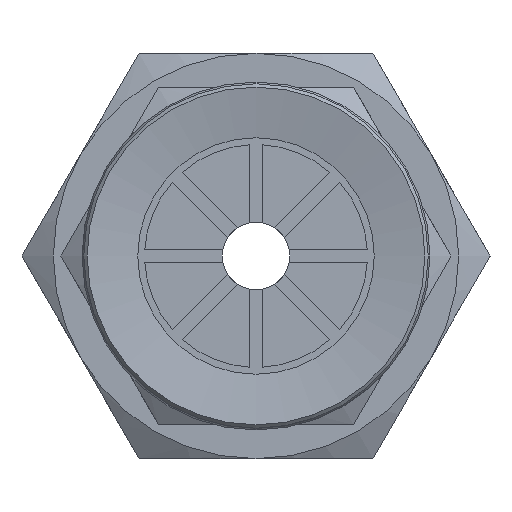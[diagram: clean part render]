
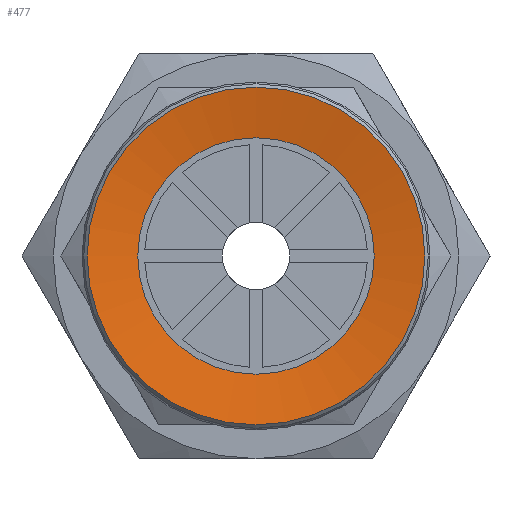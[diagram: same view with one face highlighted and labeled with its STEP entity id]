
A CAD part, front view. The second image highlights one B-rep face of the part: STEP entity #477.
In plain terms, the highlighted conical face has half-angle 80 degrees and reference radius 5 mm.
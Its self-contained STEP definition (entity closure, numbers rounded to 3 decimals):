
#477=ADVANCED_FACE('',(#717,#718),#719,.F.);
#717=FACE_BOUND('',#1018,.T.);
#718=FACE_OUTER_BOUND('',#1019,.T.);
#719=CONICAL_SURFACE('',#1020,5.0,1.396);
#1018=EDGE_LOOP('',(#1646));
#1019=EDGE_LOOP('',(#1647));
#1020=AXIS2_PLACEMENT_3D('',#1648,#1649,#1650);
#1646=ORIENTED_EDGE('',*,*,#2135,.T.);
#1647=ORIENTED_EDGE('',*,*,#2136,.F.);
#1648=CARTESIAN_POINT('',(0.0,0.,0.));
#1649=DIRECTION('',(0.0,0.,-1.0));
#1650=DIRECTION('',(0.0,1.0,0.));
#2135=EDGE_CURVE('',#2491,#2491,#2492,.T.);
#2136=EDGE_CURVE('',#2493,#2493,#2494,.T.);
#2491=VERTEX_POINT('',#3229);
#2492=CIRCLE('',#3230,3.5);
#2493=VERTEX_POINT('',#3231);
#2494=CIRCLE('',#3232,5.0);
#3229=CARTESIAN_POINT('',(0.0,-3.5,0.264));
#3230=AXIS2_PLACEMENT_3D('',#3665,#3666,#3667);
#3231=CARTESIAN_POINT('',(0.0,-5.0,0.));
#3232=AXIS2_PLACEMENT_3D('',#3668,#3669,#3670);
#3665=CARTESIAN_POINT('',(0.0,0.,0.264));
#3666=DIRECTION('',(0.0,0.,1.0));
#3667=DIRECTION('',(0.0,-1.0,0.));
#3668=CARTESIAN_POINT('',(0.0,0.,0.));
#3669=DIRECTION('',(0.0,0.,1.0));
#3670=DIRECTION('',(0.0,-1.0,0.));
